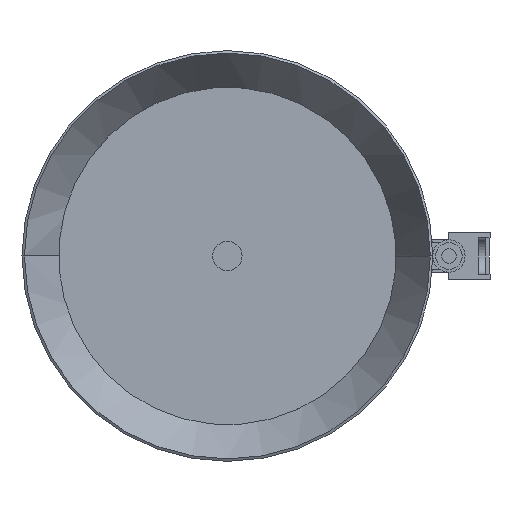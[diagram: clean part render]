
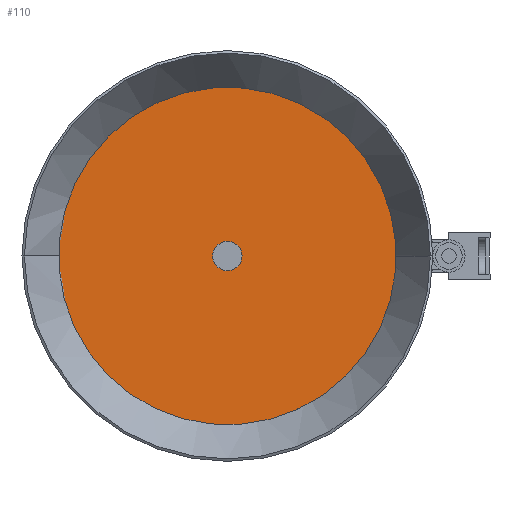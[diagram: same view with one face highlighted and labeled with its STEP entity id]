
A CAD part, front view. The second image highlights one B-rep face of the part: STEP entity #110.
In plain terms, the highlighted planar face has unit normal (0, -1, 0).
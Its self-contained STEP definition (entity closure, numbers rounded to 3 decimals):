
#65 = CARTESIAN_POINT ( 'NONE',  ( 0., 0., -2.25 ) ) ;
#107 = DIRECTION ( 'NONE',  ( 0., 0., 1. ) ) ;
#110 = ADVANCED_FACE ( 'NONE', ( #4490, #4790 ), #1232, .F. ) ;
#141 = AXIS2_PLACEMENT_3D ( 'NONE', #4642, #779, #1620 ) ;
#442 = EDGE_CURVE ( 'NONE', #5147, #2485, #1443, .T. ) ;
#779 = DIRECTION ( 'NONE',  ( 0., 1., 0. ) ) ;
#953 = DIRECTION ( 'NONE',  ( 0., 1., 0. ) ) ;
#1082 = ORIENTED_EDGE ( 'NONE', *, *, #4483, .T. ) ;
#1117 = CIRCLE ( 'NONE', #5137, 2.25 ) ;
#1194 = EDGE_CURVE ( 'NONE', #4678, #5337, #5400, .T. ) ;
#1232 = PLANE ( 'NONE',  #141 ) ;
#1400 = CARTESIAN_POINT ( 'NONE',  ( 0., 0., 0. ) ) ;
#1409 = CARTESIAN_POINT ( 'NONE',  ( 0., 0., 2.25 ) ) ;
#1443 = CIRCLE ( 'NONE', #2224, 2.25 ) ;
#1514 = ORIENTED_EDGE ( 'NONE', *, *, #2130, .F. ) ;
#1620 = DIRECTION ( 'NONE',  ( 0., 0., 1. ) ) ;
#1829 = DIRECTION ( 'NONE',  ( 0., 0., 1. ) ) ;
#1921 = CARTESIAN_POINT ( 'NONE',  ( 0., 0., -57.5 ) ) ;
#2130 = EDGE_CURVE ( 'NONE', #5337, #4678, #4779, .T. ) ;
#2224 = AXIS2_PLACEMENT_3D ( 'NONE', #4861, #2261, #107 ) ;
#2261 = DIRECTION ( 'NONE',  ( 0., 1., 0. ) ) ;
#2384 = CARTESIAN_POINT ( 'NONE',  ( 0., 0., 0. ) ) ;
#2412 = ORIENTED_EDGE ( 'NONE', *, *, #442, .T. ) ;
#2485 = VERTEX_POINT ( 'NONE', #1409 ) ;
#2487 = AXIS2_PLACEMENT_3D ( 'NONE', #1400, #953, #1829 ) ;
#2600 = AXIS2_PLACEMENT_3D ( 'NONE', #4972, #4993, #4059 ) ;
#2672 = CARTESIAN_POINT ( 'NONE',  ( 0., 0., 57.5 ) ) ;
#2676 = EDGE_LOOP ( 'NONE', ( #1514, #3620 ) ) ;
#2787 = DIRECTION ( 'NONE',  ( 0., 1., 0. ) ) ;
#3173 = EDGE_LOOP ( 'NONE', ( #1082, #2412 ) ) ;
#3620 = ORIENTED_EDGE ( 'NONE', *, *, #1194, .F. ) ;
#4059 = DIRECTION ( 'NONE',  ( 0., 0., 1. ) ) ;
#4483 = EDGE_CURVE ( 'NONE', #2485, #5147, #1117, .T. ) ;
#4490 = FACE_BOUND ( 'NONE', #3173, .T. ) ;
#4514 = DIRECTION ( 'NONE',  ( 0., 0., 1. ) ) ;
#4642 = CARTESIAN_POINT ( 'NONE',  ( 0., 0., 0. ) ) ;
#4678 = VERTEX_POINT ( 'NONE', #2672 ) ;
#4779 = CIRCLE ( 'NONE', #2600, 57.5 ) ;
#4790 = FACE_OUTER_BOUND ( 'NONE', #2676, .T. ) ;
#4861 = CARTESIAN_POINT ( 'NONE',  ( 0., 0., 0. ) ) ;
#4972 = CARTESIAN_POINT ( 'NONE',  ( 0., 0., 0. ) ) ;
#4993 = DIRECTION ( 'NONE',  ( 0., 1., 0. ) ) ;
#5137 = AXIS2_PLACEMENT_3D ( 'NONE', #2384, #2787, #4514 ) ;
#5147 = VERTEX_POINT ( 'NONE', #65 ) ;
#5337 = VERTEX_POINT ( 'NONE', #1921 ) ;
#5400 = CIRCLE ( 'NONE', #2487, 57.5 ) ;
